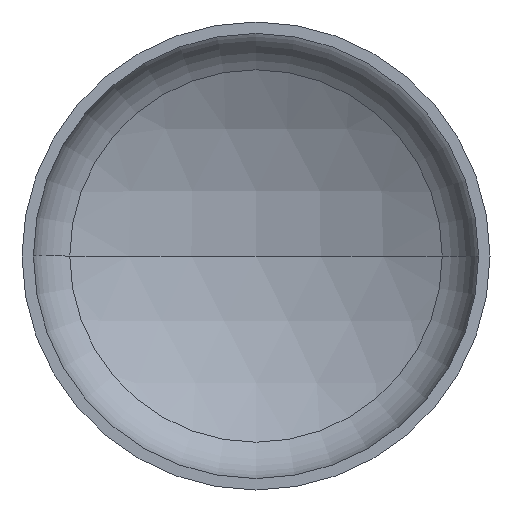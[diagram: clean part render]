
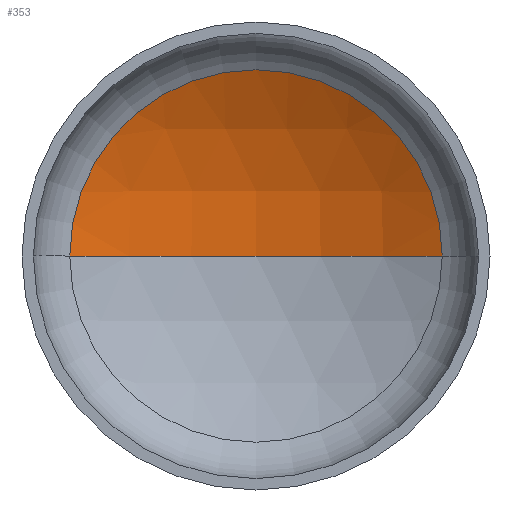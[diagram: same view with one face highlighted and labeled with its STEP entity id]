
A CAD part, front view. The second image highlights one B-rep face of the part: STEP entity #353.
In plain terms, the highlighted spherical face has radius 3600 mm.
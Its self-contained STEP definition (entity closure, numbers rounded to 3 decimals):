
#1 = AXIS2_PLACEMENT_3D ( 'NONE', #359, #402, #119 ) ;
#3 = AXIS2_PLACEMENT_3D ( 'NONE', #103, #109, #88 ) ;
#66 = DIRECTION ( 'NONE',  ( 0., 0., -1. ) ) ;
#88 = DIRECTION ( 'NONE',  ( 1., 0., 0. ) ) ;
#89 = CARTESIAN_POINT ( 'NONE',  ( 0., -2445.119, 0. ) ) ;
#91 = ORIENTED_EDGE ( 'NONE', *, *, #394, .F. ) ;
#97 = CIRCLE ( 'NONE', #3, 1790.706 ) ;
#103 = CARTESIAN_POINT ( 'NONE',  ( 0., 677.92, 0. ) ) ;
#109 = DIRECTION ( 'NONE',  ( 0., -1., 0. ) ) ;
#119 = DIRECTION ( 'NONE',  ( -1., 0., 0. ) ) ;
#122 = VERTEX_POINT ( 'NONE', #370 ) ;
#124 = VERTEX_POINT ( 'NONE', #287 ) ;
#128 = ORIENTED_EDGE ( 'NONE', *, *, #380, .T. ) ;
#129 = VERTEX_POINT ( 'NONE', #298 ) ;
#144 = ORIENTED_EDGE ( 'NONE', *, *, #350, .T. ) ;
#168 = CIRCLE ( 'NONE', #283, 3600. ) ;
#201 = EDGE_LOOP ( 'NONE', ( #91, #128, #144 ) ) ;
#235 = DIRECTION ( 'NONE',  ( 0., 0., 1. ) ) ;
#243 = SPHERICAL_SURFACE ( 'NONE', #1, 3600. ) ;
#269 = AXIS2_PLACEMENT_3D ( 'NONE', #387, #235, #407 ) ;
#280 = DIRECTION ( 'NONE',  ( -1., 0., 0. ) ) ;
#283 = AXIS2_PLACEMENT_3D ( 'NONE', #89, #66, #280 ) ;
#287 = CARTESIAN_POINT ( 'NONE',  ( 1790.706, 677.92, 0. ) ) ;
#298 = CARTESIAN_POINT ( 'NONE',  ( 0., 1154.881, 0. ) ) ;
#302 = CIRCLE ( 'NONE', #269, 3600. ) ;
#350 = EDGE_CURVE ( 'NONE', #124, #122, #97, .T. ) ;
#353 = ADVANCED_FACE ( 'NONE', ( #381 ), #243, .F. ) ;
#359 = CARTESIAN_POINT ( 'NONE',  ( 0., -2445.119, 0. ) ) ;
#370 = CARTESIAN_POINT ( 'NONE',  ( -1790.706, 677.92, 0. ) ) ;
#380 = EDGE_CURVE ( 'NONE', #129, #124, #168, .T. ) ;
#381 = FACE_OUTER_BOUND ( 'NONE', #201, .T. ) ;
#387 = CARTESIAN_POINT ( 'NONE',  ( 0., -2445.119, 0. ) ) ;
#394 = EDGE_CURVE ( 'NONE', #129, #122, #302, .T. ) ;
#402 = DIRECTION ( 'NONE',  ( 0., 0., -1. ) ) ;
#407 = DIRECTION ( 'NONE',  ( 1., 0., 0. ) ) ;
